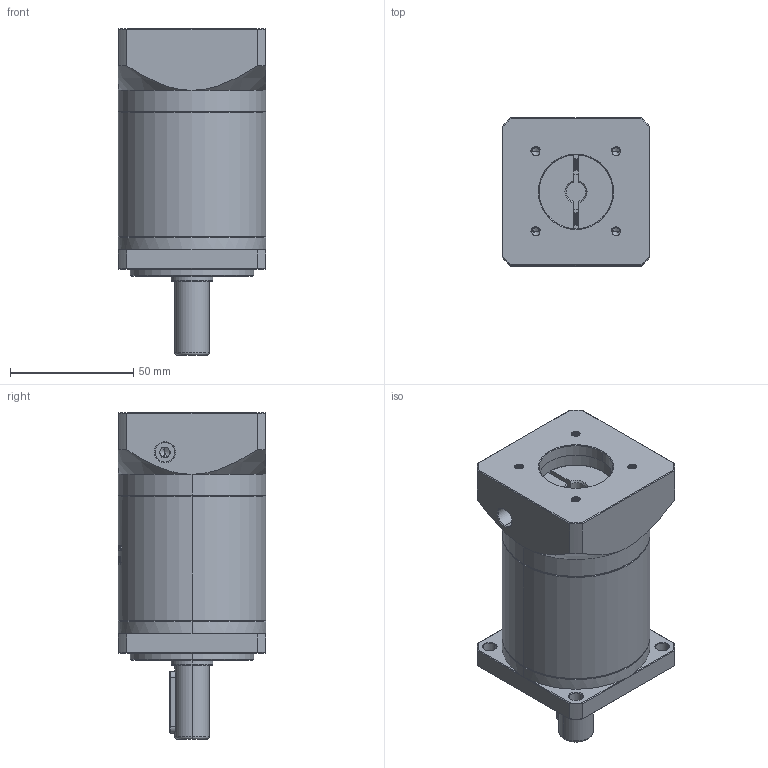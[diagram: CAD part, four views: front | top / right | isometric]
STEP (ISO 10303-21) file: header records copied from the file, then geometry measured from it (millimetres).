
FILE_DESCRIPTION (( 'STEP AP214' ), '1' );
FILE_NAME ('ZF60-D14-L2-8-30-46-M4.STEP', '2022-04-17T11:24:38', ( '' ), ( 'Microsoft' ), 'SwSTEP 2.0', 'SolidWorks 2016', '' );
FILE_SCHEMA (( 'AUTOMOTIVE_DESIGN' ));
Length unit declared in the file: millimetre
Products named in the file (1): ZF60-D14-L2-8-30-46-M4
Bounding box: 60 x 60 x 132.5 mm (x, y, z)
Volume: 277991.1 mm3; surface area: 47751.3 mm2
Topology: 6 solids, 6 shells, 1617 faces, 4370 edges, 2829 vertices
Faces by surface type: plane 744, cylinder 327, bspline 299, cone 227, torus 20
Entity records: 88826 total; most frequent: CARTESIAN_POINT 34071, ORIENTED_EDGE 8712, DIRECTION 6396, EDGE_CURVE 4356, VERTEX_POINT 2829, LINE 2210, VECTOR 2210, AXIS2_PLACEMENT_3D 2093
